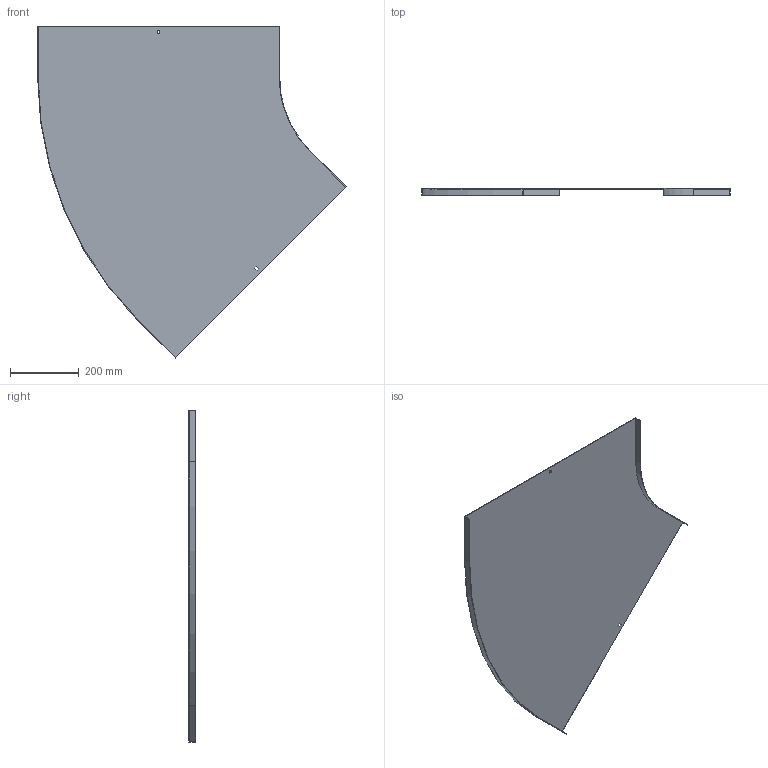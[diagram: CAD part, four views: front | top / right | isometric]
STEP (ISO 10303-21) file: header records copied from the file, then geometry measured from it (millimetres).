
FILE_DESCRIPTION (( 'STEP AP214' ), '1' );
FILE_NAME ('A2_11N3R700.step', '2025-02-21T10:50:45', ( '' ), ( '' ), 'SwSTEP 2.0', 'SolidWorks 2023', '' );
FILE_SCHEMA (( 'AUTOMOTIVE_DESIGN' ));
Length unit declared in the file: millimetre
Products named in the file (1): A2_11N3R700
Bounding box: 896.49 x 20 x 964.23 mm (x, y, z)
Volume: 899489.3 mm3; surface area: 1204063.6 mm2
Topology: 1 solids, 1 shells, 26 faces, 72 edges, 48 vertices
Faces by surface type: plane 22, cylinder 4
Entity records: 855 total; most frequent: CARTESIAN_POINT 147, ORIENTED_EDGE 144, DIRECTION 134, EDGE_CURVE 72, LINE 64, VECTOR 64, VERTEX_POINT 48, AXIS2_PLACEMENT_3D 35
